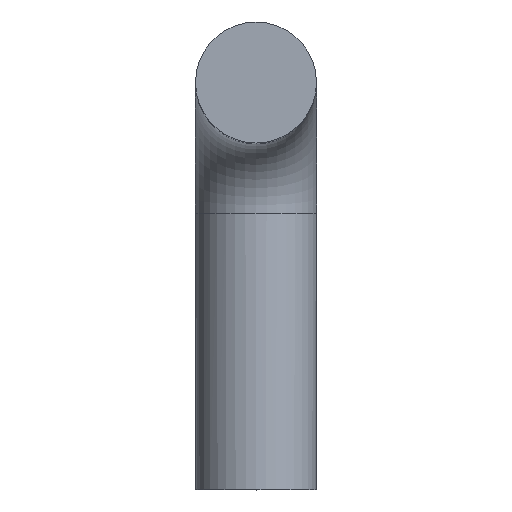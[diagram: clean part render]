
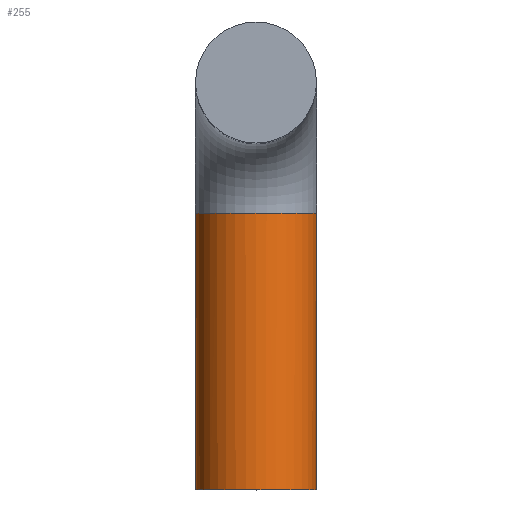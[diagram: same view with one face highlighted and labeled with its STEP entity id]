
A CAD part, top view. The second image highlights one B-rep face of the part: STEP entity #255.
In plain terms, the highlighted cylindrical face has radius 7 mm (diameter 14 mm), a full revolution.
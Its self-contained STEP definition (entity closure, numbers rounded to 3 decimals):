
#120=(
BOUNDED_CURVE()
B_SPLINE_CURVE(3,(#209,#210,#211,#212,#213,#214,#215,#216),
 .UNSPECIFIED.,.U.,.U.)
B_SPLINE_CURVE_WITH_KNOTS((4,1,1,1,1,4),(0.746,0.747,
0.749,0.751,0.752,0.754),
 .UNSPECIFIED.)
CURVE()
GEOMETRIC_REPRESENTATION_ITEM()
RATIONAL_B_SPLINE_CURVE((1.,1.,1.,1.,1.,1.,1.,1.))
REPRESENTATION_ITEM('')
);
#121=(
BOUNDED_CURVE()
B_SPLINE_CURVE(3,(#220,#221,#222,#223,#224,#225,#226,#227,#228),
 .UNSPECIFIED.,.U.,.U.)
B_SPLINE_CURVE_WITH_KNOTS((4,1,1,1,1,1,4),(0.245,0.247,
0.249,0.25,0.252,0.253,
0.255),.UNSPECIFIED.)
CURVE()
GEOMETRIC_REPRESENTATION_ITEM()
RATIONAL_B_SPLINE_CURVE((1.,1.,1.,1.,1.,1.,1.,1.,1.))
REPRESENTATION_ITEM('')
);
#122=CYLINDRICAL_SURFACE('',#242,7.);
#126=ORIENTED_EDGE('',*,*,#152,.F.);
#127=ORIENTED_EDGE('',*,*,#153,.F.);
#128=ORIENTED_EDGE('',*,*,#154,.F.);
#129=ORIENTED_EDGE('',*,*,#155,.F.);
#130=ORIENTED_EDGE('',*,*,#150,.T.);
#138=CIRCLE('',#240,7.);
#140=CIRCLE('',#243,7.);
#141=CIRCLE('',#244,7.);
#143=VERTEX_POINT('',#202);
#145=VERTEX_POINT('',#207);
#146=VERTEX_POINT('',#208);
#147=VERTEX_POINT('',#217);
#148=VERTEX_POINT('',#219);
#150=EDGE_CURVE('',#143,#143,#138,.T.);
#152=EDGE_CURVE('',#145,#146,#120,.T.);
#153=EDGE_CURVE('',#147,#145,#140,.T.);
#154=EDGE_CURVE('',#148,#147,#121,.T.);
#155=EDGE_CURVE('',#146,#148,#141,.T.);
#159=EDGE_LOOP('',(#126,#127,#128,#129));
#160=EDGE_LOOP('',(#130));
#167=FACE_BOUND('',#159,.T.);
#168=FACE_BOUND('',#160,.T.);
#175=DIRECTION('',(0.,-1.,0.));
#176=DIRECTION('',(0.,0.,-7.));
#179=DIRECTION('',(0.,1.,0.));
#180=DIRECTION('',(0.,0.,-1.));
#181=DIRECTION('',(0.,-1.,0.));
#182=DIRECTION('',(0.,0.,-7.));
#183=DIRECTION('',(0.,-1.,0.));
#184=DIRECTION('',(0.,0.,-7.));
#202=CARTESIAN_POINT('',(0.,-15.,-77.));
#203=CARTESIAN_POINT('',(0.,-15.,-70.));
#206=CARTESIAN_POINT('',(0.,-65.,-70.));
#207=CARTESIAN_POINT('',(-6.998,-47.,-69.819));
#208=CARTESIAN_POINT('',(-6.998,-47.,-70.155));
#209=CARTESIAN_POINT('',(-6.998,-47.001,-69.819));
#210=CARTESIAN_POINT('',(-6.998,-47.001,-69.842));
#211=CARTESIAN_POINT('',(-6.999,-47.,-69.887));
#212=CARTESIAN_POINT('',(-7.,-47.,-69.956));
#213=CARTESIAN_POINT('',(-7.,-47.,-70.025));
#214=CARTESIAN_POINT('',(-7.,-47.,-70.091));
#215=CARTESIAN_POINT('',(-6.999,-47.,-70.135));
#216=CARTESIAN_POINT('',(-6.998,-47.,-70.155));
#217=CARTESIAN_POINT('',(6.997,-47.,-69.789));
#218=CARTESIAN_POINT('',(0.,-47.,-70.));
#219=CARTESIAN_POINT('',(6.997,-47.,-70.2));
#220=CARTESIAN_POINT('',(6.997,-47.001,-70.2));
#221=CARTESIAN_POINT('',(6.998,-47.001,-70.177));
#222=CARTESIAN_POINT('',(6.999,-47.,-70.131));
#223=CARTESIAN_POINT('',(7.,-47.,-70.063));
#224=CARTESIAN_POINT('',(7.,-47.,-69.994));
#225=CARTESIAN_POINT('',(7.,-47.,-69.926));
#226=CARTESIAN_POINT('',(6.999,-47.,-69.857));
#227=CARTESIAN_POINT('',(6.997,-47.001,-69.811));
#228=CARTESIAN_POINT('',(6.997,-47.001,-69.789));
#229=CARTESIAN_POINT('',(0.,-47.,-70.));
#240=AXIS2_PLACEMENT_3D('',#203,#175,#176);
#242=AXIS2_PLACEMENT_3D('',#206,#179,#180);
#243=AXIS2_PLACEMENT_3D('',#218,#181,#182);
#244=AXIS2_PLACEMENT_3D('',#229,#183,#184);
#255=ADVANCED_FACE('',(#167,#168),#122,.T.);
